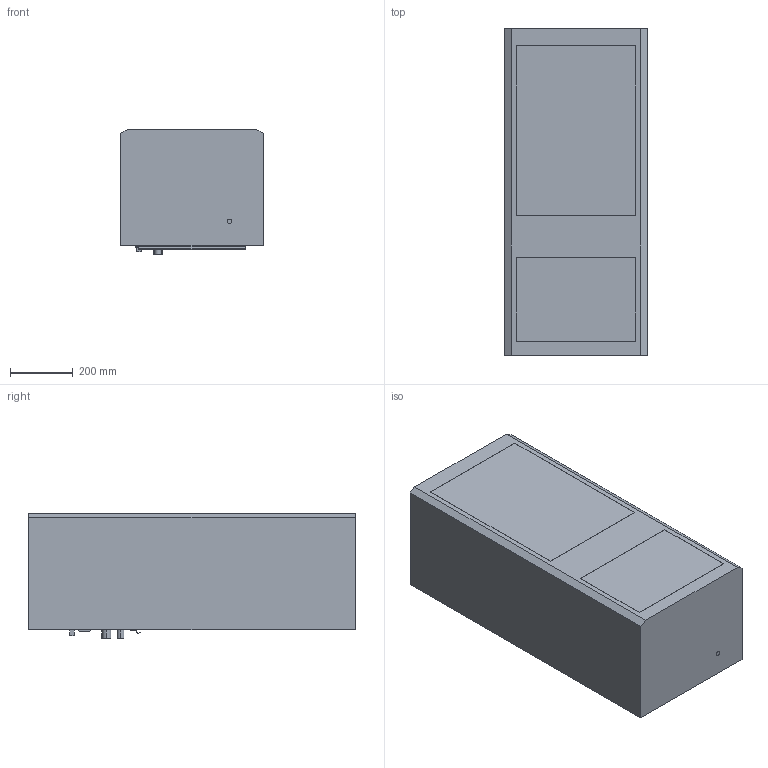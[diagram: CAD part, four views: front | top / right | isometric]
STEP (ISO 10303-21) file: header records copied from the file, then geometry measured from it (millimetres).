
FILE_DESCRIPTION((''),'2;1');
FILE_NAME('OC8740-STP','2023-12-04T16:13:17',('danielc'),(''),'CREO PARAMETRIC BY PTC INC, 2019080','CREO PARAMETRIC BY PTC INC, 2019080','');
FILE_SCHEMA(('CONFIG_CONTROL_DESIGN','SHAPE_APPEARANCE_LAYERS_GROUPS'));
Length unit declared in the file: millimetre
Products named in the file (1): OC8740-STP
Bounding box: 455 x 1040 x 397.4 mm (x, y, z)
Volume: 174644215 mm3; surface area: 2059381.1 mm2
Topology: 1 solids, 1 shells, 115 faces, 272 edges, 204 vertices
Faces by surface type: plane 67, cylinder 48
Entity records: 3479 total; most frequent: CARTESIAN_POINT 622, DIRECTION 584, ORIENTED_EDGE 510, EDGE_CURVE 255, AXIS2_PLACEMENT_3D 204, VECTOR 176, LINE 176, VERTEX_POINT 170
